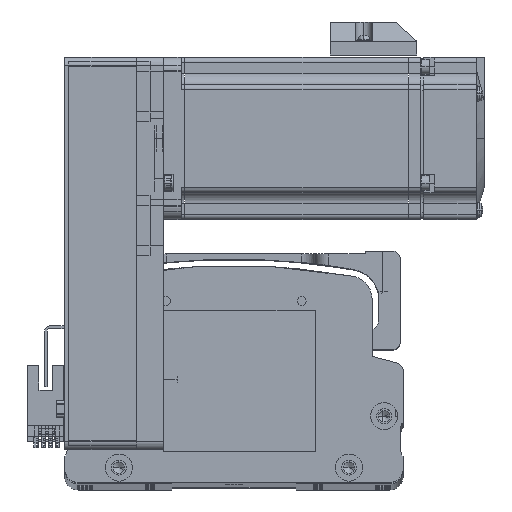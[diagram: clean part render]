
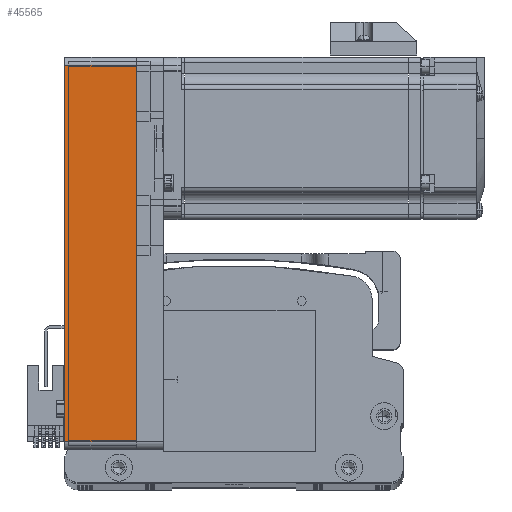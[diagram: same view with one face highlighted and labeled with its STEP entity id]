
A CAD part, top view. The second image highlights one B-rep face of the part: STEP entity #45565.
In plain terms, the highlighted planar face has unit normal (0, 0, 1) as drawn and (0, -1, 0) by its records, which use the part's own axes.
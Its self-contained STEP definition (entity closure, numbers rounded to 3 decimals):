
#484 = DIRECTION ( 'NONE',  ( 1., 0., 0. ) ) ;
#1100 = EDGE_CURVE ( 'NONE', #3999, #81225, #79032, .T. ) ;
#3265 = CARTESIAN_POINT ( 'NONE',  ( -69.5, -30., 26.5 ) ) ;
#3999 = VERTEX_POINT ( 'NONE', #5213 ) ;
#4935 = EDGE_CURVE ( 'NONE', #80023, #3999, #18957, .T. ) ;
#5213 = CARTESIAN_POINT ( 'NONE',  ( -69.5, -30., 0. ) ) ;
#5391 = CARTESIAN_POINT ( 'NONE',  ( 69.5, -30., 26.5 ) ) ;
#14168 = VECTOR ( 'NONE', #81253, 1000. ) ;
#14420 = ORIENTED_EDGE ( 'NONE', *, *, #4935, .T. ) ;
#14612 = CARTESIAN_POINT ( 'NONE',  ( -69.5, -30., 26.5 ) ) ;
#15902 = AXIS2_PLACEMENT_3D ( 'NONE', #73316, #33544, #80019 ) ;
#17178 = CARTESIAN_POINT ( 'NONE',  ( 72.5, -30., 0. ) ) ;
#18957 = LINE ( 'NONE', #3265, #52086 ) ;
#21908 = VECTOR ( 'NONE', #50149, 1000. ) ;
#27444 = EDGE_LOOP ( 'NONE', ( #80809, #40214, #28505, #14420 ) ) ;
#28505 = ORIENTED_EDGE ( 'NONE', *, *, #64127, .F. ) ;
#32403 = EDGE_CURVE ( 'NONE', #81225, #33375, #49375, .T. ) ;
#33375 = VERTEX_POINT ( 'NONE', #5391 ) ;
#33544 = DIRECTION ( 'NONE',  ( 0., 1., 0. ) ) ;
#37267 = CARTESIAN_POINT ( 'NONE',  ( 69.5, -30., 0. ) ) ;
#40179 = CARTESIAN_POINT ( 'NONE',  ( 72.5, -30., 26.5 ) ) ;
#40214 = ORIENTED_EDGE ( 'NONE', *, *, #32403, .T. ) ;
#42973 = DIRECTION ( 'NONE',  ( 0., 0., -1. ) ) ;
#45565 = ADVANCED_FACE ( 'NONE', ( #53445 ), #46606, .F. ) ;
#46606 = PLANE ( 'NONE',  #15902 ) ;
#48111 = CARTESIAN_POINT ( 'NONE',  ( 69.5, -30., 26.5 ) ) ;
#49375 = LINE ( 'NONE', #48111, #14168 ) ;
#50149 = DIRECTION ( 'NONE',  ( 1., 0., 0. ) ) ;
#50594 = LINE ( 'NONE', #40179, #64153 ) ;
#52086 = VECTOR ( 'NONE', #42973, 1000. ) ;
#53445 = FACE_OUTER_BOUND ( 'NONE', #27444, .T. ) ;
#64127 = EDGE_CURVE ( 'NONE', #80023, #33375, #50594, .T. ) ;
#64153 = VECTOR ( 'NONE', #484, 1000. ) ;
#73316 = CARTESIAN_POINT ( 'NONE',  ( 72.5, -30., 26.5 ) ) ;
#79032 = LINE ( 'NONE', #17178, #21908 ) ;
#80019 = DIRECTION ( 'NONE',  ( -1., 0., 0. ) ) ;
#80023 = VERTEX_POINT ( 'NONE', #14612 ) ;
#80809 = ORIENTED_EDGE ( 'NONE', *, *, #1100, .T. ) ;
#81225 = VERTEX_POINT ( 'NONE', #37267 ) ;
#81253 = DIRECTION ( 'NONE',  ( 0., 0., 1. ) ) ;
